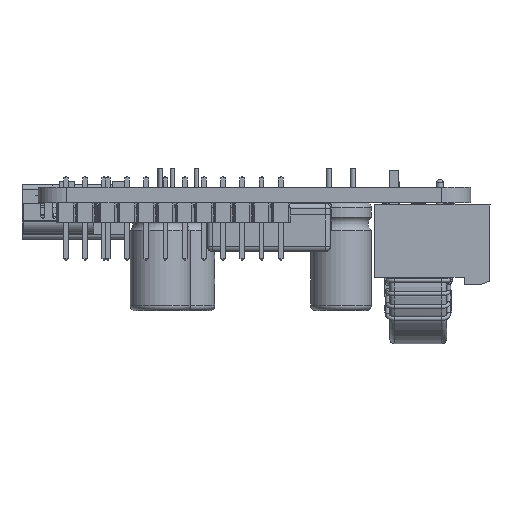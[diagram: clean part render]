
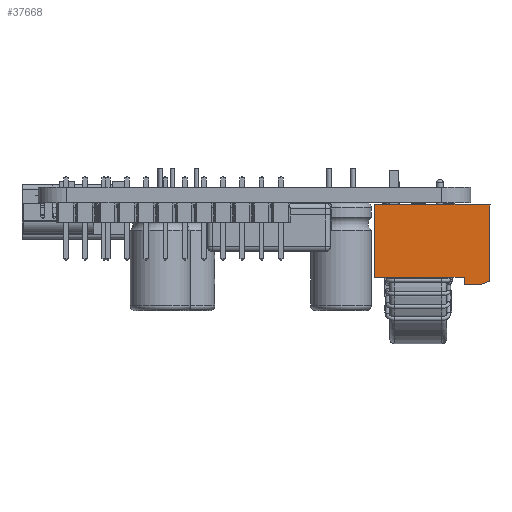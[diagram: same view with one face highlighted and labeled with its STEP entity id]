
A CAD part, left-side view. The second image highlights one B-rep face of the part: STEP entity #37668.
In plain terms, the highlighted planar face has unit normal (-1, 0, 0) as drawn and (1, 0, 0) by its records, which use the part's own axes.
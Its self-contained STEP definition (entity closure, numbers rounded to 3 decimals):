
#4882=FACE_OUTER_BOUND('',#6936,.T.);
#6936=EDGE_LOOP('',(#32459,#32460,#32461,#32462,#32463,#32464,#32465,#32466,
#32467));
#10609=LINE('',#61926,#14607);
#10619=LINE('',#61946,#14617);
#10627=LINE('',#61960,#14625);
#10683=LINE('',#62105,#14681);
#10691=LINE('',#62121,#14689);
#10701=LINE('',#62141,#14699);
#10719=LINE('',#62174,#14717);
#10723=LINE('',#62185,#14721);
#10724=LINE('',#62186,#14722);
#14607=VECTOR('',#48839,1.);
#14617=VECTOR('',#48857,1.);
#14625=VECTOR('',#48871,1.);
#14681=VECTOR('',#49021,1.);
#14689=VECTOR('',#49031,1.);
#14699=VECTOR('',#49045,1.);
#14717=VECTOR('',#49069,1.);
#14721=VECTOR('',#49085,1.);
#14722=VECTOR('',#49086,1.);
#18022=VERTEX_POINT('',#61923);
#18023=VERTEX_POINT('',#61925);
#18029=VERTEX_POINT('',#61945);
#18032=VERTEX_POINT('',#61959);
#18074=VERTEX_POINT('',#62104);
#18081=VERTEX_POINT('',#62120);
#18088=VERTEX_POINT('',#62138);
#18089=VERTEX_POINT('',#62140);
#18102=VERTEX_POINT('',#62184);
#22913=EDGE_CURVE('',#18023,#18022,#10609,.T.);
#22923=EDGE_CURVE('',#18029,#18023,#10619,.T.);
#22931=EDGE_CURVE('',#18032,#18029,#10627,.T.);
#23001=EDGE_CURVE('',#18074,#18032,#10683,.T.);
#23009=EDGE_CURVE('',#18081,#18074,#10691,.T.);
#23019=EDGE_CURVE('',#18089,#18088,#10701,.T.);
#23037=EDGE_CURVE('',#18088,#18081,#10719,.T.);
#23041=EDGE_CURVE('',#18022,#18102,#10723,.T.);
#23042=EDGE_CURVE('',#18102,#18089,#10724,.T.);
#32459=ORIENTED_EDGE('',*,*,#22913,.T.);
#32460=ORIENTED_EDGE('',*,*,#23041,.T.);
#32461=ORIENTED_EDGE('',*,*,#23042,.T.);
#32462=ORIENTED_EDGE('',*,*,#23019,.T.);
#32463=ORIENTED_EDGE('',*,*,#23037,.T.);
#32464=ORIENTED_EDGE('',*,*,#23009,.T.);
#32465=ORIENTED_EDGE('',*,*,#23001,.T.);
#32466=ORIENTED_EDGE('',*,*,#22931,.T.);
#32467=ORIENTED_EDGE('',*,*,#22923,.T.);
#35988=PLANE('',#40501);
#37668=ADVANCED_FACE('',(#4882),#35988,.T.);
#40501=AXIS2_PLACEMENT_3D('',#62183,#49083,#49084);
#48839=DIRECTION('',(0.,-1.,0.));
#48857=DIRECTION('',(0.,-0.33,0.944));
#48871=DIRECTION('',(0.,0.,1.));
#49021=DIRECTION('',(0.,1.,0.));
#49031=DIRECTION('',(0.,0.,1.));
#49045=DIRECTION('',(0.,0.,-1.));
#49069=DIRECTION('',(0.,1.,0.));
#49083=DIRECTION('center_axis',(1.,0.,0.));
#49084=DIRECTION('ref_axis',(0.,0.,-1.));
#49085=DIRECTION('',(0.,0.,-1.));
#49086=DIRECTION('',(0.,-1.,0.));
#61923=CARTESIAN_POINT('',(5.99,-3.78,0.));
#61925=CARTESIAN_POINT('',(5.99,4.15,0.));
#61926=CARTESIAN_POINT('',(5.99,4.15,0.));
#61945=CARTESIAN_POINT('',(5.99,4.5,-1.));
#61946=CARTESIAN_POINT('',(5.99,4.5,-1.));
#61959=CARTESIAN_POINT('',(5.99,4.5,-2.7));
#61960=CARTESIAN_POINT('',(5.99,4.5,-2.7));
#62104=CARTESIAN_POINT('',(5.99,3.75,-2.7));
#62105=CARTESIAN_POINT('',(5.99,3.75,-2.7));
#62120=CARTESIAN_POINT('',(5.99,3.75,-12.));
#62121=CARTESIAN_POINT('',(5.99,3.75,-12.));
#62138=CARTESIAN_POINT('',(5.99,-3.85,-12.));
#62140=CARTESIAN_POINT('',(5.99,-3.85,-2.7));
#62141=CARTESIAN_POINT('',(5.99,-3.85,-2.7));
#62174=CARTESIAN_POINT('',(5.99,-3.85,-12.));
#62183=CARTESIAN_POINT('Origin',(5.99,0.,0.));
#62184=CARTESIAN_POINT('',(5.99,-3.78,-2.7));
#62185=CARTESIAN_POINT('',(5.99,-3.78,0.));
#62186=CARTESIAN_POINT('',(5.99,-3.78,-2.7));
